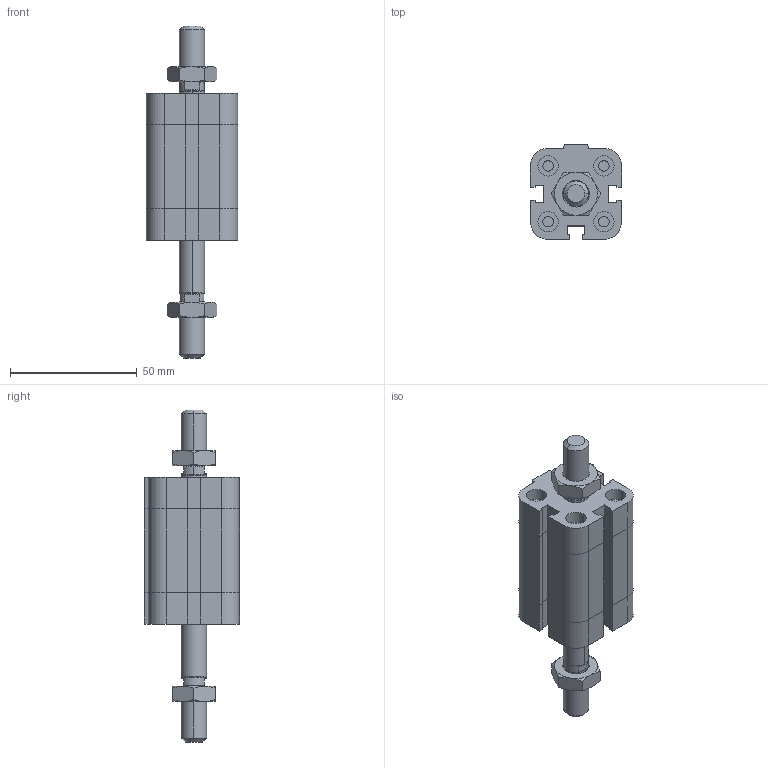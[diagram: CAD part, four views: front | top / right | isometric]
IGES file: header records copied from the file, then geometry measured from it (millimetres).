
Global section: file name: No Iges File Name specified; native system: Autodesk Inventor 2009; preprocessor: AutoDesk Inventor Iges Exporter R2009; author: maffial1; date: 20090420.200842; units: millimetre
Bounding box: 36 x 37.5 x 131 mm (x, y, z)
Volume: 71851.6 mm3; surface area: 22834.4 mm2
Topology: 4 solids, 4 shells, 260 faces, 574 edges, 342 vertices
Faces by surface type: plane 129, bspline 51, cone 38, cylinder 22, revolution 20
